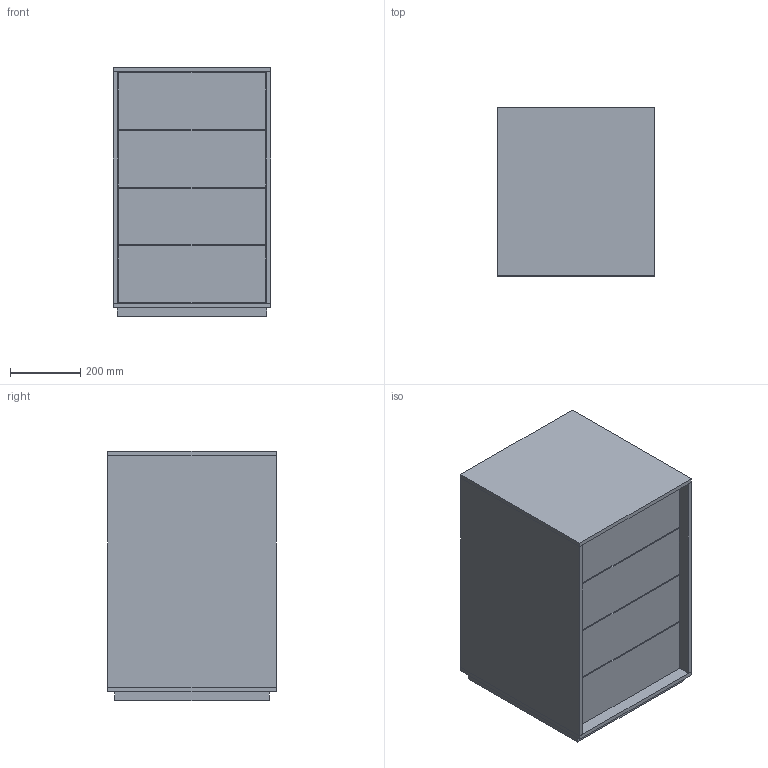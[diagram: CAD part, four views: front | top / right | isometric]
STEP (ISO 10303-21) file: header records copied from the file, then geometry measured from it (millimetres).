
FILE_DESCRIPTION(/* description */ (''),/* implementation_level */ '2;1');
FILE_NAME(/* name */ 'C05 - Luminare Cassettiera 4 cassetti',/* time_stamp */ '2010-12-10T10:58:32+01:00',/* author */ (''),/* organization */ (''),/* preprocessor_version */ 'ST-DEVELOPER v10',/* originating_system */ '',/* authorisation */ '');
FILE_SCHEMA (('CONFIG_CONTROL_DESIGN'));
Length unit declared in the file: centimetre
Products named in the file (1): 1
Bounding box: 450 x 480 x 710 mm (x, y, z)
Volume: 35356884 mm3; surface area: 5722260 mm2
Topology: 14 solids, 14 shells, 84 faces, 168 edges, 112 vertices
Faces by surface type: plane 84
Entity records: 1940 total; most frequent: CARTESIAN_POINT 534, ORIENTED_EDGE 336, EDGE_CURVE 168, B_SPLINE_CURVE_WITH_KNOTS 168, VERTEX_POINT 112, DIRECTION 88, AXIS2_PLACEMENT_3D 86, ADVANCED_FACE 84
